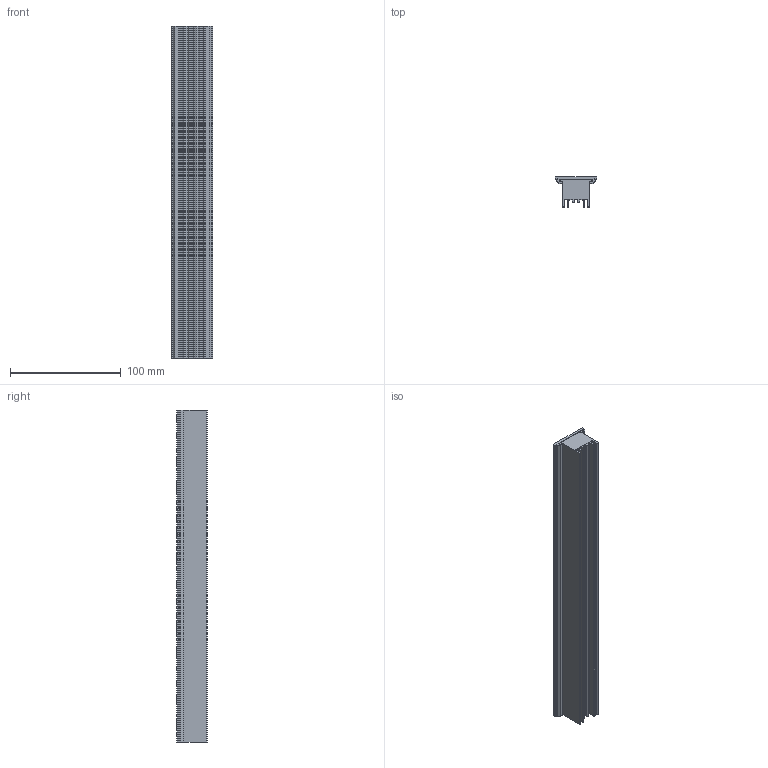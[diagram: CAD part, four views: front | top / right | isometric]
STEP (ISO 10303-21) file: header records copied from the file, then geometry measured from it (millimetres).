
FILE_DESCRIPTION (( 'STEP AP214' ), '1' );
FILE_NAME ('Dot 5 CLICK.STEP', '2017-10-20T10:43:21', ( 'Ofitecnic3' ), ( 'Microsoft' ), 'SwSTEP 2.0', 'SolidWorks 2016', '' );
FILE_SCHEMA (( 'AUTOMOTIVE_DESIGN' ));
Length unit declared in the file: millimetre
Products named in the file (4): Led BIM (DOT)_10; Perfil Tapa  BIM(SYSTEM CLICK)_LX10; Dot 5 CLICK; Disipador BIM (DOT)_300 M3
Assembly tree (3 placements, depth 2):
  Dot 5 CLICK
    Disipador BIM (DOT)_300 M3
    Perfil Tapa  BIM(SYSTEM CLICK)_LX10
    Led BIM (DOT)_10
Bounding box: 37.22 x 27.3 x 300 mm (x, y, z)
Volume: 173334.6 mm3; surface area: 79853.2 mm2
Topology: 12 solids, 12 shells, 155 faces, 393 edges, 262 vertices
Faces by surface type: plane 70, cylinder 65, cone 20
Entity records: 5012 total; most frequent: DIRECTION 885, CARTESIAN_POINT 816, ORIENTED_EDGE 786, EDGE_CURVE 393, AXIS2_PLACEMENT_3D 331, VERTEX_POINT 262, VECTOR 223, LINE 223
